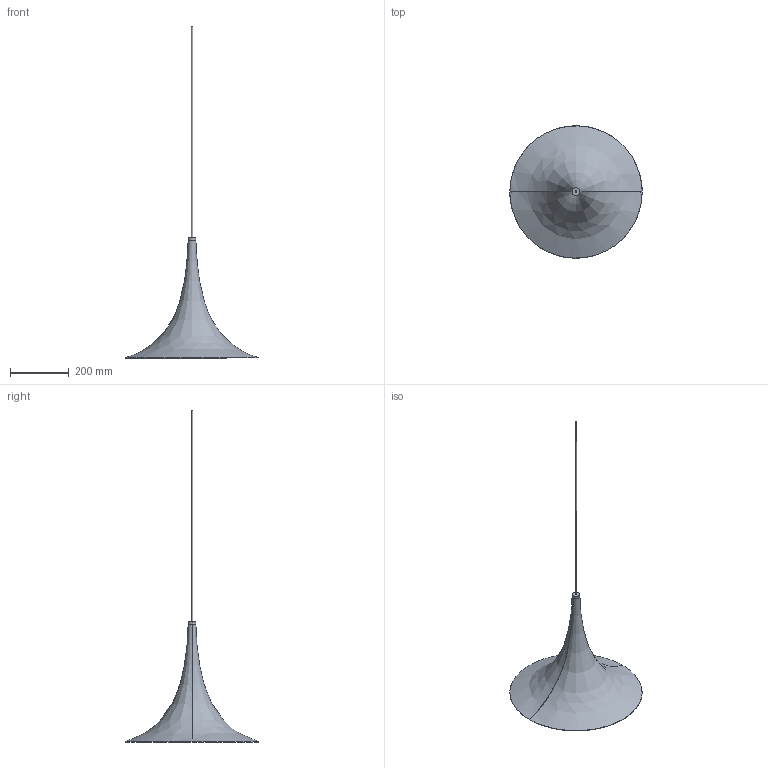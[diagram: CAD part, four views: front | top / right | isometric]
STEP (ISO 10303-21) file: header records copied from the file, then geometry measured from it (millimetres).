
FILE_DESCRIPTION(/* description */ (''),/* implementation_level */ '2;1');
FILE_NAME(/* name */ 'DAROET~3',/* time_stamp */ '2017-05-22T07:15:21+02:00',/* author */ (''),/* organization */ (''),/* preprocessor_version */ 'ST-DEVELOPER v15',/* originating_system */ '',/* authorisation */ '');
FILE_SCHEMA (('AUTOMOTIVE_DESIGN'));
Length unit declared in the file: millimetre
Products named in the file (1): Document
Bounding box: 450 x 449.67 x 1128.23 mm (x, y, z)
Volume: 371306.3 mm3; surface area: 481433.9 mm2
Topology: 3 solids, 3 shells, 16 faces, 28 edges, 16 vertices
Faces by surface type: bspline 12, plane 4
Entity records: 853 total; most frequent: CARTESIAN_POINT 654, ORIENTED_EDGE 56, EDGE_CURVE 28, ADVANCED_FACE 16, FACE_OUTER_BOUND 16, EDGE_LOOP 16, VERTEX_POINT 16, B_SPLINE_CURVE_WITH_KNOTS 8
